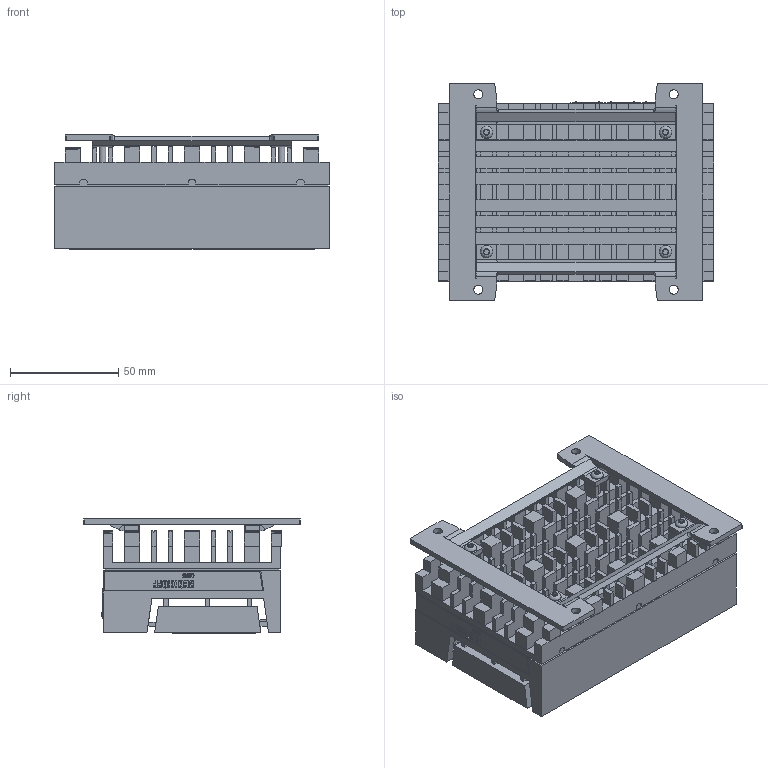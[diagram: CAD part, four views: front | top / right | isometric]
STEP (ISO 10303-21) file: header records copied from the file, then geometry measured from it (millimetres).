
FILE_DESCRIPTION(/* description */ (''),/* implementation_level */ '2;1');
FILE_NAME(/* name */ 'X:\0-inventor\0-3d-Teile\PC-Compo\solids\C6025\0-Ausgabe\C6025_3936.stp',/* time_stamp */ '2021-01-28T15:34:22+01:00',/* author */ (''),/* organization */ (''),/* preprocessor_version */ 'ST-DEVELOPER v18.1',/* originating_system */ 'Autodesk Inventor 2021',/* authorisation */ '');
FILE_SCHEMA (('AUTOMOTIVE_DESIGN { 1 0 10303 214 3 1 1 }'));
Products named in the file (5): C6025_S; C6025-solid; Parallelflansch_C602x; Parallelflansch C602x; ISO 7380 - M3x14  schwarz
Assembly tree (7 placements, depth 3):
  C6025_S
    C6025-solid
    Parallelflansch_C602x
      Parallelflansch C602x
      ISO 7380 - M3x14  schwarz  x4
Bounding box: 127 x 100 x 52.6 mm (x, y, z)
Volume: 293767.7 mm3; surface area: 124502.4 mm2
Topology: 6 solids, 31 shells, 7751 faces, 21292 edges, 13496 vertices
Faces by surface type: plane 5547, cylinder 1678, bspline 391, cone 76, torus 41, sphere 18
Full cylindrical faces by diameter (mm): 2 x4, 2.3 x2, 2.4 x2, 2.459 x4, 3 x4, 3.242 x1, 3.5 x4, 3.8 x2, 4.2 x4, 5.7 x4
Entity records: 259829 total; most frequent: CARTESIAN_POINT 56687, ORIENTED_EDGE 42252, DIRECTION 38455, EDGE_CURVE 21126, LINE 16651, VECTOR 16651, VERTEX_POINT 13397, AXIS2_PLACEMENT_3D 10902
